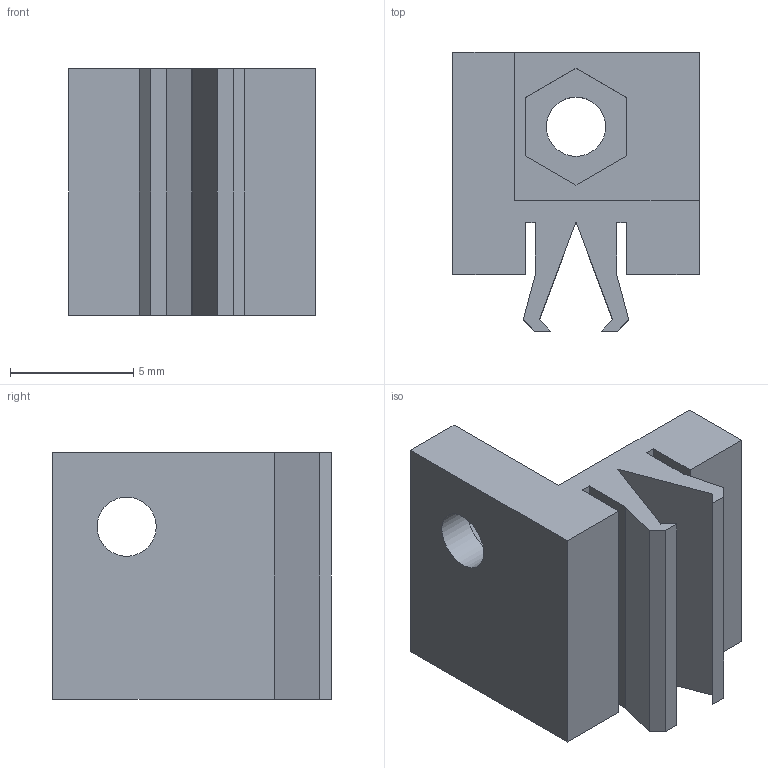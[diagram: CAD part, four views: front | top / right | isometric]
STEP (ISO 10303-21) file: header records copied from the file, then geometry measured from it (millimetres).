
FILE_DESCRIPTION(/* description */ (''),/* implementation_level */ '2;1');
FILE_NAME(/* name */ 'C:/Users/priba/Downloads/Brick1x1l5l5Opp.step',/* time_stamp */ '2020-06-09T22:01:02+02:00',/* author */ (''),/* organization */ (''),/* preprocessor_version */ 'ST-DEVELOPER v18.1',/* originating_system */ 'Autodesk Translation Framework v9.3.0.1241',/* authorisation */ '');
FILE_SCHEMA (('AUTOMOTIVE_DESIGN { 1 0 10303 214 3 1 1 }'));
Length unit declared in the file: millimetre
Products named in the file (1): Brick1x1l5l5Opp
Bounding box: 10 x 11.31 x 10 mm (x, y, z)
Volume: 519.7 mm3; surface area: 805.7 mm2
Topology: 1 solids, 1 shells, 43 faces, 117 edges, 78 vertices
Faces by surface type: plane 41, cylinder 2
Full cylindrical faces by diameter (mm): 2.4 x2
Entity records: 1365 total; most frequent: CARTESIAN_POINT 239, ORIENTED_EDGE 234, DIRECTION 209, EDGE_CURVE 117, LINE 113, VECTOR 113, VERTEX_POINT 78, EDGE_LOOP 49
